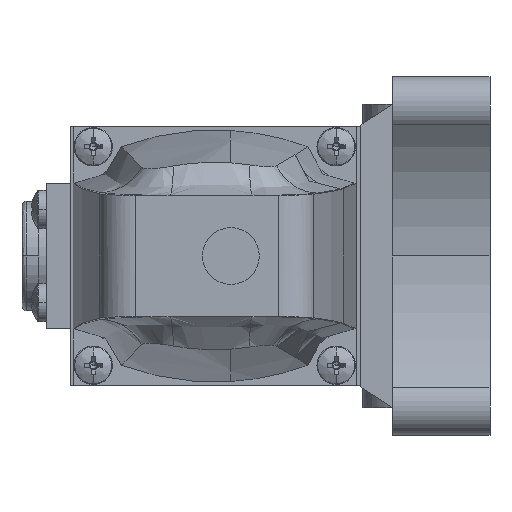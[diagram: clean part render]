
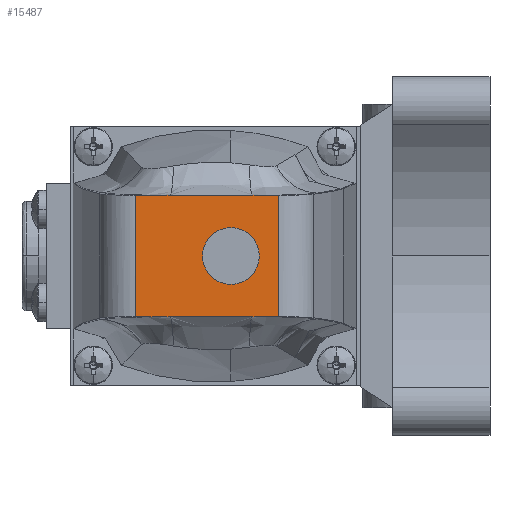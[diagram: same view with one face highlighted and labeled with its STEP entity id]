
A CAD part, left-side view. The second image highlights one B-rep face of the part: STEP entity #15487.
In plain terms, the highlighted planar face has unit normal (-1, 0, 0) as drawn and (0, 1, 0) by its records, which use the part's own axes.
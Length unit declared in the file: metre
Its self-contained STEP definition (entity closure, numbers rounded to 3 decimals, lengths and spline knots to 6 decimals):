
#15 = CARTESIAN_POINT ( 'NONE',  ( -0.015009, 0.1617, 0.014983 ) ) ;
#88 = ORIENTED_EDGE ( 'NONE', *, *, #8000, .T. ) ;
#119 = DIRECTION ( 'NONE',  ( 0., 0., 1. ) ) ;
#319 = EDGE_CURVE ( 'NONE', #1574, #11753, #12285, .T. ) ;
#482 = CARTESIAN_POINT ( 'NONE',  ( -0.015014, 0.1617, -0.005189 ) ) ;
#513 = CARTESIAN_POINT ( 'NONE',  ( -0.015014, 0.1617, -0.005189 ) ) ;
#589 = B_SPLINE_CURVE_WITH_KNOTS ( 'NONE', 3,
 ( #5734, #6983, #8357, #482 ),
 .UNSPECIFIED., .F., .F.,
 ( 4, 4 ),
 ( 0., 0.003625 ),
 .UNSPECIFIED. ) ;
#854 = EDGE_CURVE ( 'NONE', #13749, #11394, #6878, .T. ) ;
#968 = CARTESIAN_POINT ( 'NONE',  ( 0., 0.1617, 0. ) ) ;
#994 = VECTOR ( 'NONE', #5698, 1. ) ;
#1003 = CARTESIAN_POINT ( 'NONE',  ( 0.015, 0.1617, -0.008814 ) ) ;
#1312 = CARTESIAN_POINT ( 'NONE',  ( 0.015, 0.1617, -0.007605 ) ) ;
#1323 = ORIENTED_EDGE ( 'NONE', *, *, #8452, .T. ) ;
#1372 = ORIENTED_EDGE ( 'NONE', *, *, #2706, .T. ) ;
#1505 = LINE ( 'NONE', #5584, #4592 ) ;
#1574 = VERTEX_POINT ( 'NONE', #13326 ) ;
#1796 = ORIENTED_EDGE ( 'NONE', *, *, #6361, .T. ) ;
#2127 = VECTOR ( 'NONE', #12053, 1. ) ;
#2133 = CARTESIAN_POINT ( 'NONE',  ( -0.015014, 0.1617, -0.005189 ) ) ;
#2263 = DIRECTION ( 'NONE',  ( 1., 0., 0. ) ) ;
#2267 = EDGE_CURVE ( 'NONE', #14347, #1574, #1505, .T. ) ;
#2469 = LINE ( 'NONE', #9357, #5582 ) ;
#2682 = B_SPLINE_CURVE_WITH_KNOTS ( 'NONE', 3,
 ( #11831, #9201, #1312, #10543 ),
 .UNSPECIFIED., .F., .F.,
 ( 4, 4 ),
 ( 0., 0.003625 ),
 .UNSPECIFIED. ) ;
#2706 = EDGE_CURVE ( 'NONE', #6550, #14347, #10156, .T. ) ;
#2735 = CARTESIAN_POINT ( 'NONE',  ( 0.015, 0.1617, 0.023596 ) ) ;
#2788 = EDGE_CURVE ( 'NONE', #12951, #12704, #3075, .T. ) ;
#2821 = CARTESIAN_POINT ( 'NONE',  ( -0.015, 0.1617, 0.023596 ) ) ;
#3006 = VERTEX_POINT ( 'NONE', #15 ) ;
#3075 = B_SPLINE_CURVE_WITH_KNOTS ( 'NONE', 3,
 ( #15873, #15479, #15459, #15888 ),
 .UNSPECIFIED., .F., .F.,
 ( 4, 4 ),
 ( 0., 0.002958 ),
 .UNSPECIFIED. ) ;
#3386 = CARTESIAN_POINT ( 'NONE',  ( -0.015, 0.1617, 0.017942 ) ) ;
#3453 = CARTESIAN_POINT ( 'NONE',  ( -0.015025, 0.1617, -0.001827 ) ) ;
#3675 = CIRCLE ( 'NONE', #6031, 0.007 ) ;
#3744 = CARTESIAN_POINT ( 'NONE',  ( -0.007, 0.1617, 0. ) ) ;
#3831 = B_SPLINE_CURVE_WITH_KNOTS ( 'NONE', 3,
 ( #15545, #14266, #15601, #7637, #16933, #8945 ),
 .UNSPECIFIED., .F., .F.,
 ( 4, 2, 4 ),
 ( 0., 0.010086, 0.020172 ),
 .UNSPECIFIED. ) ;
#3938 = EDGE_CURVE ( 'NONE', #13985, #5527, #15749, .T. ) ;
#4080 = CARTESIAN_POINT ( 'NONE',  ( -0.015, 0.1617, -0.008814 ) ) ;
#4176 = ORIENTED_EDGE ( 'NONE', *, *, #5476, .T. ) ;
#4592 = VECTOR ( 'NONE', #5833, 1. ) ;
#4686 = CARTESIAN_POINT ( 'NONE',  ( -0.015006, 0.1617, 0.01597 ) ) ;
#4798 = CARTESIAN_POINT ( 'NONE',  ( -0.015028, 0.1617, 0.008259 ) ) ;
#5476 = EDGE_CURVE ( 'NONE', #15855, #6550, #2682, .T. ) ;
#5527 = VERTEX_POINT ( 'NONE', #2735 ) ;
#5582 = VECTOR ( 'NONE', #10722, 1. ) ;
#5584 = CARTESIAN_POINT ( 'NONE',  ( 0., 0.1617, -0.011838 ) ) ;
#5667 = EDGE_CURVE ( 'NONE', #5527, #12951, #7992, .T. ) ;
#5698 = DIRECTION ( 'NONE',  ( 0., 0., -1. ) ) ;
#5734 = CARTESIAN_POINT ( 'NONE',  ( -0.015, 0.1617, -0.008814 ) ) ;
#5833 = DIRECTION ( 'NONE',  ( -1., 0., 0. ) ) ;
#5991 = CARTESIAN_POINT ( 'NONE',  ( 0.015009, 0.1617, 0.014983 ) ) ;
#6004 = EDGE_LOOP ( 'NONE', ( #1323, #6320 ) ) ;
#6031 = AXIS2_PLACEMENT_3D ( 'NONE', #968, #10171, #2263 ) ;
#6141 = CARTESIAN_POINT ( 'NONE',  ( -0.015009, 0.1617, 0.014983 ) ) ;
#6185 = FACE_OUTER_BOUND ( 'NONE', #7971, .T. ) ;
#6320 = ORIENTED_EDGE ( 'NONE', *, *, #854, .T. ) ;
#6361 = EDGE_CURVE ( 'NONE', #11753, #15692, #589, .T. ) ;
#6505 = CARTESIAN_POINT ( 'NONE',  ( 0., 0.1617, 0. ) ) ;
#6550 = VERTEX_POINT ( 'NONE', #1003 ) ;
#6592 = ORIENTED_EDGE ( 'NONE', *, *, #5667, .T. ) ;
#6653 = VECTOR ( 'NONE', #12909, 1. ) ;
#6878 = CIRCLE ( 'NONE', #15943, 0.007 ) ;
#6983 = CARTESIAN_POINT ( 'NONE',  ( -0.015, 0.1617, -0.007605 ) ) ;
#7432 = VERTEX_POINT ( 'NONE', #10367 ) ;
#7637 = CARTESIAN_POINT ( 'NONE',  ( 0.015031, 0.1617, 0.001535 ) ) ;
#7835 = DIRECTION ( 'NONE',  ( 1., 0., 0. ) ) ;
#7971 = EDGE_LOOP ( 'NONE', ( #4176, #1372, #11262, #14834, #1796, #9230, #16307, #15548, #16890, #6592, #12204, #88 ) ) ;
#7992 = LINE ( 'NONE', #10895, #994 ) ;
#8000 = EDGE_CURVE ( 'NONE', #12704, #15855, #3831, .T. ) ;
#8017 = DIRECTION ( 'NONE',  ( 0., 1., 0. ) ) ;
#8057 = AXIS2_PLACEMENT_3D ( 'NONE', #10621, #8017, #119 ) ;
#8357 = CARTESIAN_POINT ( 'NONE',  ( -0.015011, 0.1617, -0.006397 ) ) ;
#8452 = EDGE_CURVE ( 'NONE', #11394, #13749, #3675, .T. ) ;
#8945 = CARTESIAN_POINT ( 'NONE',  ( 0.015014, 0.1617, -0.005189 ) ) ;
#9056 = VECTOR ( 'NONE', #14844, 1. ) ;
#9201 = CARTESIAN_POINT ( 'NONE',  ( 0.015011, 0.1617, -0.006397 ) ) ;
#9230 = ORIENTED_EDGE ( 'NONE', *, *, #16493, .T. ) ;
#9357 = CARTESIAN_POINT ( 'NONE',  ( -0.015, 0.1617, 0.005879 ) ) ;
#9783 = CARTESIAN_POINT ( 'NONE',  ( 0.007, 0.1617, 0. ) ) ;
#9925 = CARTESIAN_POINT ( 'NONE',  ( -0.015009, 0.1617, 0.014983 ) ) ;
#10156 = LINE ( 'NONE', #12315, #6653 ) ;
#10171 = DIRECTION ( 'NONE',  ( 0., -1., 0. ) ) ;
#10178 = CARTESIAN_POINT ( 'NONE',  ( 0.015014, 0.1617, -0.005189 ) ) ;
#10367 = CARTESIAN_POINT ( 'NONE',  ( -0.015, 0.1617, 0.017942 ) ) ;
#10543 = CARTESIAN_POINT ( 'NONE',  ( 0.015, 0.1617, -0.008814 ) ) ;
#10621 = CARTESIAN_POINT ( 'NONE',  ( -0.015211, 0.1617, -0.011838 ) ) ;
#10722 = DIRECTION ( 'NONE',  ( 0., 0., 1. ) ) ;
#10895 = CARTESIAN_POINT ( 'NONE',  ( 0.015, 0.1617, 0.005879 ) ) ;
#11262 = ORIENTED_EDGE ( 'NONE', *, *, #2267, .T. ) ;
#11353 = CARTESIAN_POINT ( 'NONE',  ( -0.015, 0.1617, 0.016956 ) ) ;
#11394 = VERTEX_POINT ( 'NONE', #9783 ) ;
#11663 = CARTESIAN_POINT ( 'NONE',  ( 0.015, 0.1617, -0.011838 ) ) ;
#11753 = VERTEX_POINT ( 'NONE', #4080 ) ;
#11831 = CARTESIAN_POINT ( 'NONE',  ( 0.015014, 0.1617, -0.005189 ) ) ;
#12053 = DIRECTION ( 'NONE',  ( 0., 0., 1. ) ) ;
#12204 = ORIENTED_EDGE ( 'NONE', *, *, #2788, .T. ) ;
#12285 = LINE ( 'NONE', #13393, #2127 ) ;
#12315 = CARTESIAN_POINT ( 'NONE',  ( 0.015, 0.1617, 0.005879 ) ) ;
#12704 = VERTEX_POINT ( 'NONE', #5991 ) ;
#12727 = CARTESIAN_POINT ( 'NONE',  ( -0.015031, 0.1617, 0.001535 ) ) ;
#12909 = DIRECTION ( 'NONE',  ( 0., 0., -1. ) ) ;
#12951 = VERTEX_POINT ( 'NONE', #13228 ) ;
#13228 = CARTESIAN_POINT ( 'NONE',  ( 0.015, 0.1617, 0.017942 ) ) ;
#13326 = CARTESIAN_POINT ( 'NONE',  ( -0.015, 0.1617, -0.011838 ) ) ;
#13393 = CARTESIAN_POINT ( 'NONE',  ( -0.015, 0.1617, 0.005879 ) ) ;
#13749 = VERTEX_POINT ( 'NONE', #3744 ) ;
#13985 = VERTEX_POINT ( 'NONE', #2821 ) ;
#14083 = CARTESIAN_POINT ( 'NONE',  ( -0.015019, 0.1617, 0.011621 ) ) ;
#14266 = CARTESIAN_POINT ( 'NONE',  ( 0.015019, 0.1617, 0.011621 ) ) ;
#14332 = CARTESIAN_POINT ( 'NONE',  ( 0., 0.1617, 0.023596 ) ) ;
#14347 = VERTEX_POINT ( 'NONE', #11663 ) ;
#14625 = EDGE_CURVE ( 'NONE', #3006, #7432, #14717, .T. ) ;
#14717 = B_SPLINE_CURVE_WITH_KNOTS ( 'NONE', 3,
 ( #9925, #4686, #11353, #3386 ),
 .UNSPECIFIED., .F., .F.,
 ( 4, 4 ),
 ( 0., 0.002958 ),
 .UNSPECIFIED. ) ;
#14834 = ORIENTED_EDGE ( 'NONE', *, *, #319, .T. ) ;
#14844 = DIRECTION ( 'NONE',  ( 1., 0., 0. ) ) ;
#15459 = CARTESIAN_POINT ( 'NONE',  ( 0.015006, 0.1617, 0.01597 ) ) ;
#15479 = CARTESIAN_POINT ( 'NONE',  ( 0.015, 0.1617, 0.016956 ) ) ;
#15487 = ADVANCED_FACE ( 'NONE', ( #16589, #6185 ), #15990, .T. ) ;
#15545 = CARTESIAN_POINT ( 'NONE',  ( 0.015009, 0.1617, 0.014983 ) ) ;
#15548 = ORIENTED_EDGE ( 'NONE', *, *, #16175, .T. ) ;
#15601 = CARTESIAN_POINT ( 'NONE',  ( 0.015028, 0.1617, 0.008259 ) ) ;
#15692 = VERTEX_POINT ( 'NONE', #513 ) ;
#15749 = LINE ( 'NONE', #14332, #9056 ) ;
#15804 = DIRECTION ( 'NONE',  ( 0., -1., 0. ) ) ;
#15855 = VERTEX_POINT ( 'NONE', #10178 ) ;
#15873 = CARTESIAN_POINT ( 'NONE',  ( 0.015, 0.1617, 0.017942 ) ) ;
#15888 = CARTESIAN_POINT ( 'NONE',  ( 0.015009, 0.1617, 0.014983 ) ) ;
#15943 = AXIS2_PLACEMENT_3D ( 'NONE', #6505, #15804, #7835 ) ;
#15990 = PLANE ( 'NONE',  #8057 ) ;
#16175 = EDGE_CURVE ( 'NONE', #7432, #13985, #2469, .T. ) ;
#16307 = ORIENTED_EDGE ( 'NONE', *, *, #14625, .T. ) ;
#16398 = B_SPLINE_CURVE_WITH_KNOTS ( 'NONE', 3,
 ( #2133, #3453, #12727, #4798, #14083, #6141 ),
 .UNSPECIFIED., .F., .F.,
 ( 4, 2, 4 ),
 ( 0., 0.010086, 0.020172 ),
 .UNSPECIFIED. ) ;
#16493 = EDGE_CURVE ( 'NONE', #15692, #3006, #16398, .T. ) ;
#16589 = FACE_BOUND ( 'NONE', #6004, .T. ) ;
#16890 = ORIENTED_EDGE ( 'NONE', *, *, #3938, .T. ) ;
#16933 = CARTESIAN_POINT ( 'NONE',  ( 0.015025, 0.1617, -0.001827 ) ) ;
